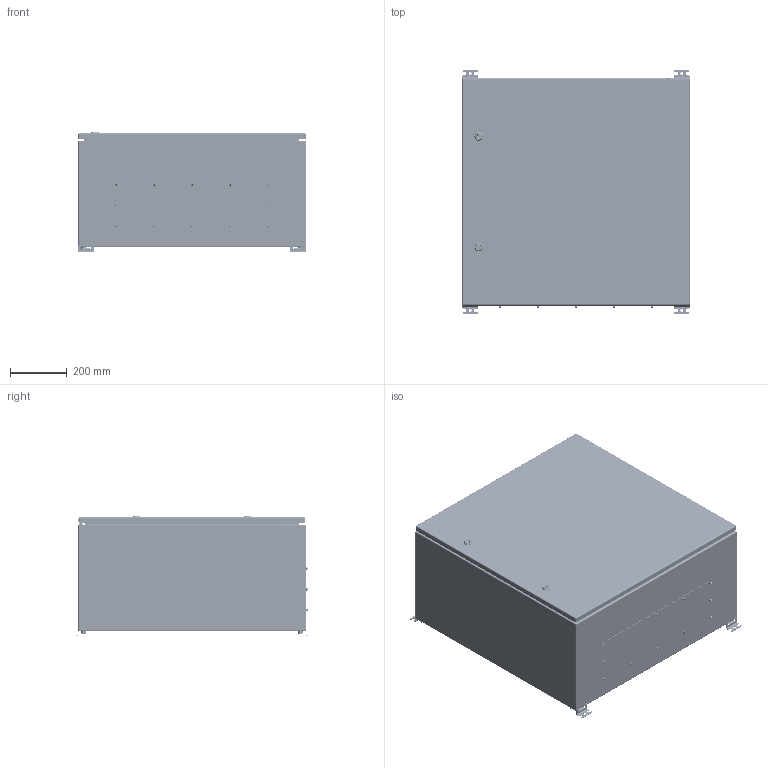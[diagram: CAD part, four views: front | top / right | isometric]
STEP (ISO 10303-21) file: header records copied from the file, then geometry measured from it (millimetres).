
FILE_DESCRIPTION(('STEP AP242'), '1');
FILE_NAME('400 ﾙﾌﾏ-1 (IP-56)', '', ('UNSPECIFIED'), ('UNSPECIFIED'), 'C3D Converter', 'C3D Toolkit', '');
FILE_SCHEMA(('AP242_MANAGED_MODEL_BASED_3D_ENGINEERING_MIM_LF { 1 0 10303 442 1 1 4 }'));
Length unit declared in the file: millimetre
Products named in the file (50): ЩМП-1-ЛФ СБ; 410-ЛФ; 420; 421; 411-Ф; 430-Л; 431-Л; 490; 491; 401; 440-Ф; 441-Ф; 402; 403; 450; 451; ЦИУЛ.210677.00.03-03; 452
Assembly tree (164 placements, depth 4):
  ЩМП-1-ЛФ СБ
    410-ЛФ
      420
        421
        (unnamed)  x6
        (unnamed)
      411-Ф
      430-Л
        431-Л
        (unnamed)  x12
    490  x2
      491
      (unnamed)
      (unnamed)
      (unnamed)
      (unnamed)
      (unnamed)
    490  x2
      491
      (unnamed)
      (unnamed)
      (unnamed)
      (unnamed)
      (unnamed)
    401
    (unnamed)  x6
    (unnamed)  x6
    (unnamed)  x6
    (unnamed)  x3
      (unnamed)
      (unnamed)
      (unnamed)
    (unnamed)  x18
    440-Ф
      441-Ф
      (unnamed)
      (unnamed)  x6
      (unnamed)  x3
    402  x2
    (unnamed)  x6
    (unnamed)  x6
    (unnamed)  x2
      (unnamed)
      (unnamed)
      (unnamed)
      (unnamed)
      (unnamed)
    (unnamed)  x2
    403
    (unnamed)  x12
    (unnamed)  x12
    450
      451
      (unnamed)  x3
      (unnamed)  x2
      (unnamed)  x2
      (unnamed)  x3
      ЦИУЛ.210677.00.03-03
      452
      (unnamed)
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Bounding box: 800 x 856 x 423.1 mm (x, y, z)
Volume: 5760749.1 mm3; surface area: 6995484.3 mm2
Topology: 178 solids, 178 shells, 3354 faces, 7904 edges, 5026 vertices
Faces by surface type: plane 1924, cylinder 933, cone 329, extrusion 54, sphere 45, torus 37, bspline 32
Full cylindrical faces by diameter (mm): 0.5 x6, 2.6 x8, 3.3 x1, 3.5 x104, 4 x1, 4.134 x15, 4.2 x7, 4.917 x6, 5 x23, 5.3 x2, 5.5 x25, 5.75 x3, 5.8 x2, 6 x36, 6.38 x12, 6.4 x18, 6.647 x10, 7 x9, 7.3 x6, 7.4 x1, 7.5 x9, 7.74 x12, 8 x17, 8.4 x10, 8.5 x33, 8.7 x12, 9 x12, 10 x26, 10.4 x2, 10.5 x6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
Entity records: 74272 total; most frequent: CARTESIAN_POINT 36317, DIRECTION 6234, ORIENTED_EDGE 5792, EDGE_CURVE 2896, AXIS2_PLACEMENT_3D 2310, VERTEX_POINT 1966, EDGE_LOOP 1800, VECTOR 1614
